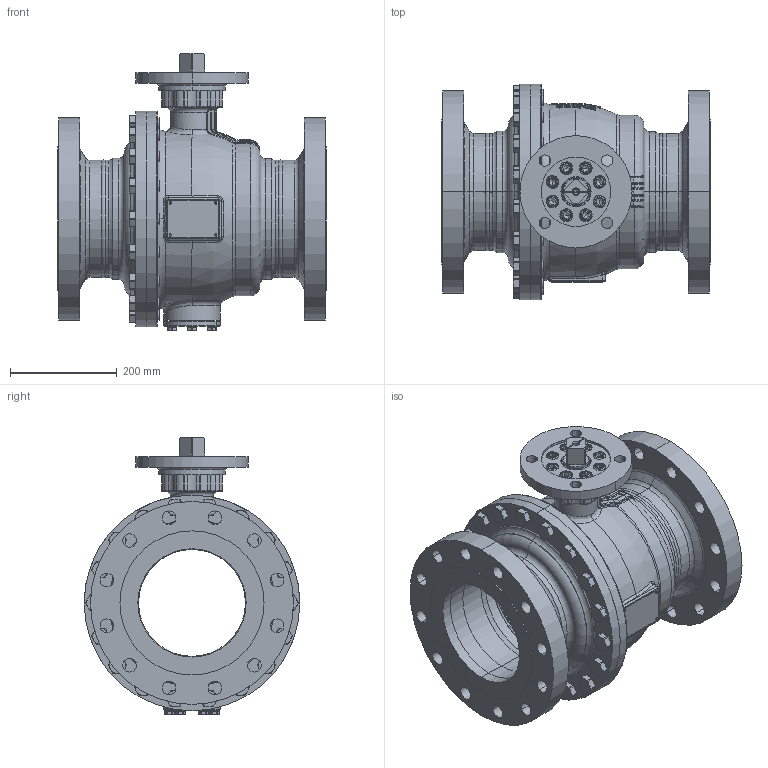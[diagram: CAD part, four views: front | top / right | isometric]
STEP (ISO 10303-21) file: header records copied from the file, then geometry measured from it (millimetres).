
FILE_DESCRIPTION((''),'2;1');
FILE_NAME('KHI-F_200_CL300-F16-4_SW0001','2026-02-05T13:25:16',('fischerkl'),('KLINGER'),'CREO PARAMETRIC BY PTC INC, 2023014','CREO PARAMETRIC BY PTC INC, 2023014','');
FILE_SCHEMA(('CONFIG_CONTROL_DESIGN'));
Products named in the file (1): KHI-F_200_CL300-F16-4_SW0001
Bounding box: 502 x 404 x 519.2 mm (x, y, z)
Volume: 16392563.6 mm3; surface area: 2476356.5 mm2
Topology: 1 solids, 4 shells, 2936 faces, 7322 edges, 4537 vertices
Faces by surface type: plane 1415, cylinder 714, cone 364, torus 305, bspline 108, sphere 30
Entity records: 120721 total; most frequent: CARTESIAN_POINT 51534, ORIENTED_EDGE 14592, DIRECTION 14353, EDGE_CURVE 7296, AXIS2_PLACEMENT_3D 5542, VERTEX_POINT 4537, VECTOR 3269, LINE 3269
